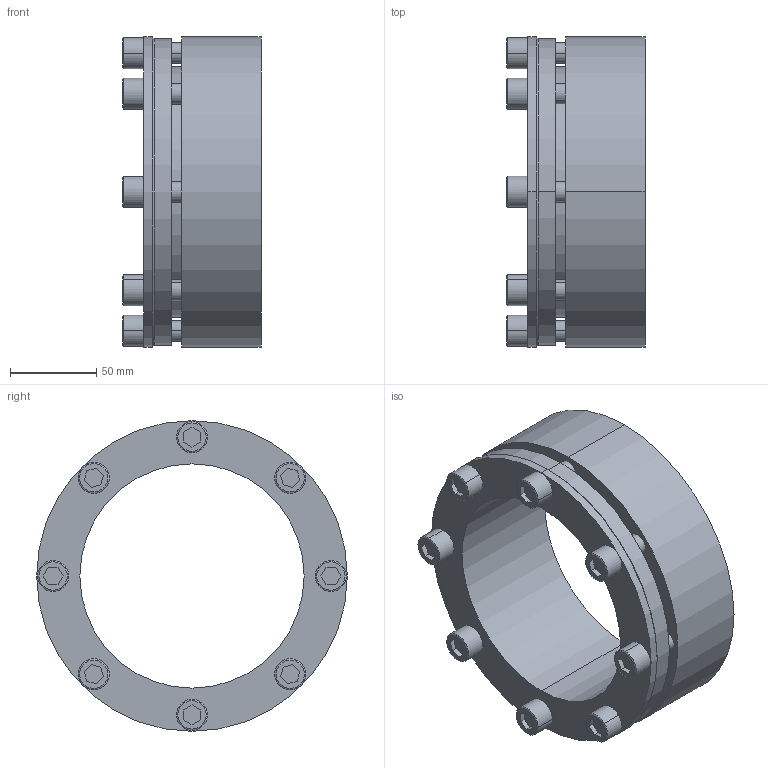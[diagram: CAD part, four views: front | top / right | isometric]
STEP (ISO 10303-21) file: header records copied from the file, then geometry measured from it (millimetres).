
FILE_DESCRIPTION (( 'STEP AP203' ), '1' );
FILE_NAME ('SD-130.step', '2009-09-29T16:25:31', ( 'USER' ), ( 'HOME' ), 'SwSTEP 2.0', 'SolidWorks 2007', '' );
FILE_SCHEMA (( 'CONFIG_CONTROL_DESIGN' ));
Length unit declared in the file: millimetre
Products named in the file (1): SD-130
Bounding box: 80 x 180 x 180 mm (x, y, z)
Volume: 777195.2 mm3; surface area: 139903.1 mm2
Topology: 9 solids, 9 shells, 176 faces, 400 edges, 260 vertices
Faces by surface type: plane 84, cylinder 74, cone 18
Entity records: 5097 total; most frequent: DIRECTION 918, CARTESIAN_POINT 837, ORIENTED_EDGE 800, EDGE_CURVE 400, AXIS2_PLACEMENT_3D 341, VERTEX_POINT 260, VECTOR 236, LINE 236
